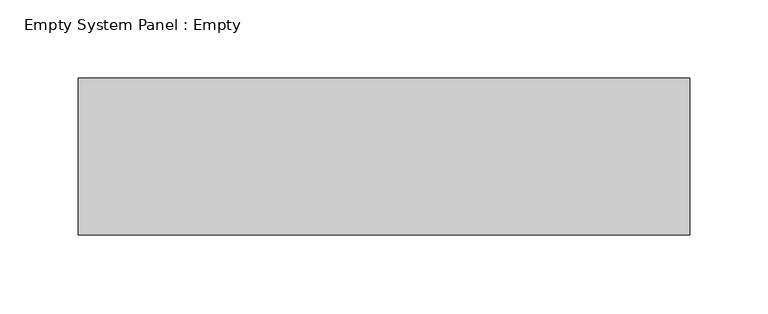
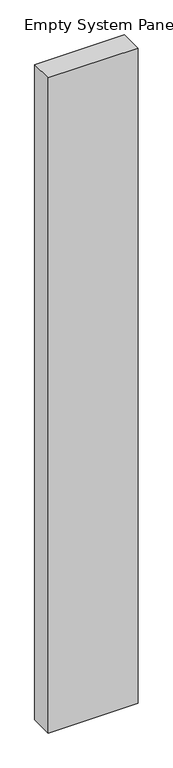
"""IFC4 building model written with IfcOpenShell, lengths in millimetres: plate geometry, Empty System Panel : Empty."""

from ifc_helpers import new_model, si_unit, origin, origin_with_axes, place, context, project, spatial, polyline, outline, extrude, source, transform, mapped, element, save


def empty_system_panel_empty_4085ea94(model_context):
    return source(origin(), model_context, "Body", "SweptSolid", [
        extrude(outline(polyline([(195.0, -50.0), (-195.0, -50.0), (-195.0, 50.0), (195.0, 50.0), (195.0, -50.0)])), origin_with_axes(), (0.0, 0.0, 1.0), 3000.0),
    ])


if __name__ == "__main__":
    model = new_model("IFC4")
    model_context = context("Model", 3, world=origin())
    ifc_project = project(units=[si_unit("LENGTHUNIT", "METRE", prefix="MILLI")], contexts=[model_context])
    site = spatial("IfcSite", under=ifc_project)
    building = spatial("IfcBuilding", under=site)
    placement = place(None, origin())
    empty_system_panel_empty_shape = empty_system_panel_empty_4085ea94(model_context)
    element("IfcPlate", 1, ObjectType="Empty System Panel : Empty", at=placement, inside=building, context=model_context, shape_type="MappedRepresentation", body=[
        mapped(empty_system_panel_empty_shape, transform((0.0, 0.0, 0.0), x_axis=(1.0, 0.0, 0.0), y_axis=(0.0, 1.0, 0.0), z_axis=(0.0, 0.0, 1.0))),
    ])
    save(model, "model.ifc")
